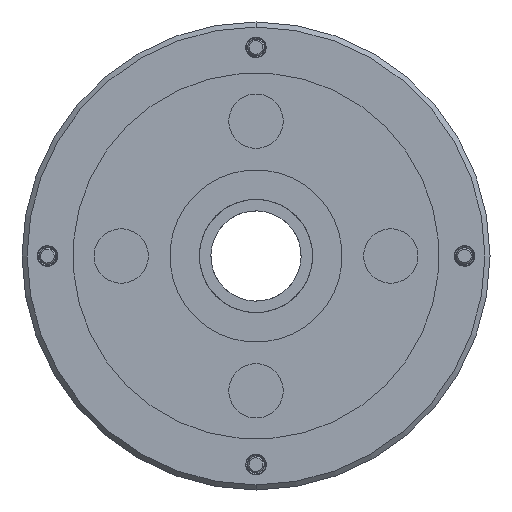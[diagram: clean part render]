
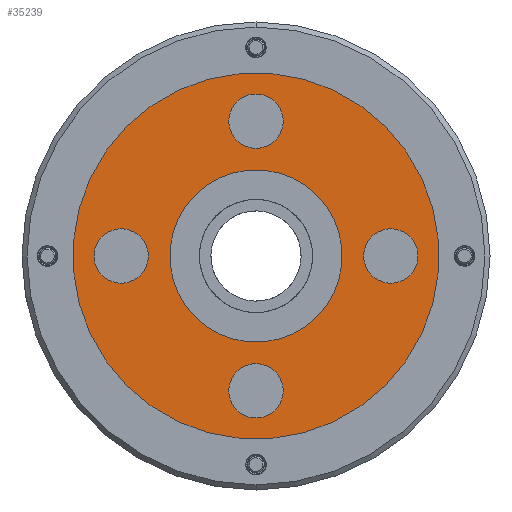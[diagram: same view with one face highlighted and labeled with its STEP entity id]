
A CAD part, front view. The second image highlights one B-rep face of the part: STEP entity #35239.
In plain terms, the highlighted planar face has unit normal (0, -1, 0).
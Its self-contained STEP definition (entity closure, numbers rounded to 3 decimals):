
#239 = ORIENTED_EDGE ( 'NONE', *, *, #51759, .F. ) ;
#2235 = DIRECTION ( 'NONE',  ( 0., -1., 0. ) ) ;
#4381 = CARTESIAN_POINT ( 'NONE',  ( -14.529, -383.6, 73.841 ) ) ;
#5721 = CARTESIAN_POINT ( 'NONE',  ( 59.315, -383.6, 79.499 ) ) ;
#5817 = DIRECTION ( 'NONE',  ( 0.707, 0., -0.707 ) ) ;
#6200 = EDGE_LOOP ( 'NONE', ( #80691, #85631 ) ) ;
#6371 = DIRECTION ( 'NONE',  ( 0.707, 0., -0.707 ) ) ;
#6553 = AXIS2_PLACEMENT_3D ( 'NONE', #32041, #94837, #103609 ) ;
#6646 = AXIS2_PLACEMENT_3D ( 'NONE', #69418, #14868, #85345 ) ;
#6824 = DIRECTION ( 'NONE',  ( 0.707, 0., -0.707 ) ) ;
#7228 = VERTEX_POINT ( 'NONE', #108678 ) ;
#11328 = AXIS2_PLACEMENT_3D ( 'NONE', #15734, #87370, #6371 ) ;
#11978 = AXIS2_PLACEMENT_3D ( 'NONE', #107774, #27422, #52664 ) ;
#13108 = AXIS2_PLACEMENT_3D ( 'NONE', #69801, #113147, #97360 ) ;
#13471 = DIRECTION ( 'NONE',  ( 0., -1., 0. ) ) ;
#13483 = FACE_BOUND ( 'NONE', #33333, .T. ) ;
#14451 = ORIENTED_EDGE ( 'NONE', *, *, #74886, .F. ) ;
#14868 = DIRECTION ( 'NONE',  ( 0., -1., 0. ) ) ;
#14906 = DIRECTION ( 'NONE',  ( 0., -1., 0. ) ) ;
#15415 = VERTEX_POINT ( 'NONE', #5721 ) ;
#15734 = CARTESIAN_POINT ( 'NONE',  ( 25.222, -383.6, 73.841 ) ) ;
#17169 = AXIS2_PLACEMENT_3D ( 'NONE', #93922, #13471, #38789 ) ;
#23340 = VERTEX_POINT ( 'NONE', #91705 ) ;
#26498 = EDGE_CURVE ( 'NONE', #89043, #87358, #34626, .T. ) ;
#26999 = EDGE_CURVE ( 'NONE', #87358, #89043, #77887, .T. ) ;
#27422 = DIRECTION ( 'NONE',  ( 0., -1., 0. ) ) ;
#27532 = VERTEX_POINT ( 'NONE', #93745 ) ;
#28834 = VERTEX_POINT ( 'NONE', #90599 ) ;
#29966 = FACE_BOUND ( 'NONE', #95725, .T. ) ;
#30700 = CARTESIAN_POINT ( 'NONE',  ( -8.871, -383.6, 68.184 ) ) ;
#32041 = CARTESIAN_POINT ( 'NONE',  ( 25.222, -383.6, 34.09 ) ) ;
#33333 = EDGE_LOOP ( 'NONE', ( #40933, #112376 ) ) ;
#34072 = VERTEX_POINT ( 'NONE', #47164 ) ;
#34626 = CIRCLE ( 'NONE', #47728, 8.001 ) ;
#35239 = ADVANCED_FACE ( 'NONE', ( #66918, #102688, #58070, #13483, #29966, #40502 ), #76352, .T. ) ;
#35947 = AXIS2_PLACEMENT_3D ( 'NONE', #110114, #2235, #38637 ) ;
#38475 = CIRCLE ( 'NONE', #66601, 8.001 ) ;
#38637 = DIRECTION ( 'NONE',  ( 0.707, 0., -0.707 ) ) ;
#38789 = DIRECTION ( 'NONE',  ( 0.707, 0., -0.707 ) ) ;
#38893 = EDGE_CURVE ( 'NONE', #62143, #34072, #52896, .T. ) ;
#40431 = CARTESIAN_POINT ( 'NONE',  ( 7.261, -383.6, 91.802 ) ) ;
#40502 = FACE_OUTER_BOUND ( 'NONE', #114187, .T. ) ;
#40708 = CARTESIAN_POINT ( 'NONE',  ( 70.631, -383.6, 68.184 ) ) ;
#40933 = ORIENTED_EDGE ( 'NONE', *, *, #51399, .F. ) ;
#45602 = DIRECTION ( 'NONE',  ( 0.707, 0., -0.707 ) ) ;
#45635 = EDGE_CURVE ( 'NONE', #76128, #60202, #80749, .T. ) ;
#46064 = CARTESIAN_POINT ( 'NONE',  ( -12.944, -383.6, 112.007 ) ) ;
#47164 = CARTESIAN_POINT ( 'NONE',  ( 43.182, -383.6, 55.881 ) ) ;
#47187 = ORIENTED_EDGE ( 'NONE', *, *, #94021, .T. ) ;
#47728 = AXIS2_PLACEMENT_3D ( 'NONE', #4381, #14906, #102926 ) ;
#51341 = EDGE_CURVE ( 'NONE', #27532, #28834, #77812, .T. ) ;
#51388 = DIRECTION ( 'NONE',  ( 0., -1., 0. ) ) ;
#51399 = EDGE_CURVE ( 'NONE', #51665, #15415, #38475, .T. ) ;
#51665 = VERTEX_POINT ( 'NONE', #40708 ) ;
#51759 = EDGE_CURVE ( 'NONE', #7228, #23340, #57169, .T. ) ;
#52419 = ORIENTED_EDGE ( 'NONE', *, *, #88977, .F. ) ;
#52664 = DIRECTION ( 'NONE',  ( 0.707, 0., -0.707 ) ) ;
#52896 = CIRCLE ( 'NONE', #82953, 25.4 ) ;
#57169 = CIRCLE ( 'NONE', #6646, 8.001 ) ;
#58070 = FACE_BOUND ( 'NONE', #71102, .T. ) ;
#60202 = VERTEX_POINT ( 'NONE', #85908 ) ;
#62038 = DIRECTION ( 'NONE',  ( 0., -1., 0. ) ) ;
#62143 = VERTEX_POINT ( 'NONE', #40431 ) ;
#64446 = AXIS2_PLACEMENT_3D ( 'NONE', #71453, #62038, #45602 ) ;
#66601 = AXIS2_PLACEMENT_3D ( 'NONE', #105323, #51388, #6824 ) ;
#66918 = FACE_BOUND ( 'NONE', #72615, .T. ) ;
#67576 = DIRECTION ( 'NONE',  ( 0.707, 0., -0.707 ) ) ;
#69145 = DIRECTION ( 'NONE',  ( 0., -1., 0. ) ) ;
#69418 = CARTESIAN_POINT ( 'NONE',  ( 25.222, -383.6, 113.592 ) ) ;
#69801 = CARTESIAN_POINT ( 'NONE',  ( 25.222, -383.6, 73.841 ) ) ;
#71102 = EDGE_LOOP ( 'NONE', ( #73500, #14451 ) ) ;
#71453 = CARTESIAN_POINT ( 'NONE',  ( 25.222, -383.6, 34.09 ) ) ;
#71993 = CARTESIAN_POINT ( 'NONE',  ( -20.187, -383.6, 79.499 ) ) ;
#72615 = EDGE_LOOP ( 'NONE', ( #239, #112860 ) ) ;
#73500 = ORIENTED_EDGE ( 'NONE', *, *, #51341, .F. ) ;
#74886 = EDGE_CURVE ( 'NONE', #28834, #27532, #90666, .T. ) ;
#75063 = EDGE_CURVE ( 'NONE', #15415, #51665, #90746, .T. ) ;
#76128 = VERTEX_POINT ( 'NONE', #46064 ) ;
#76352 = PLANE ( 'NONE',  #13108 ) ;
#77812 = CIRCLE ( 'NONE', #6553, 8.001 ) ;
#77887 = CIRCLE ( 'NONE', #115139, 8.001 ) ;
#80376 = ORIENTED_EDGE ( 'NONE', *, *, #38893, .F. ) ;
#80691 = ORIENTED_EDGE ( 'NONE', *, *, #26999, .F. ) ;
#80749 = CIRCLE ( 'NONE', #11328, 53.975 ) ;
#82953 = AXIS2_PLACEMENT_3D ( 'NONE', #94642, #111562, #85290 ) ;
#83578 = ORIENTED_EDGE ( 'NONE', *, *, #45635, .T. ) ;
#85290 = DIRECTION ( 'NONE',  ( 0.707, 0., -0.707 ) ) ;
#85345 = DIRECTION ( 'NONE',  ( 0.707, 0., -0.707 ) ) ;
#85631 = ORIENTED_EDGE ( 'NONE', *, *, #26498, .F. ) ;
#85908 = CARTESIAN_POINT ( 'NONE',  ( 63.388, -383.6, 35.675 ) ) ;
#86210 = CARTESIAN_POINT ( 'NONE',  ( 25.222, -383.6, 73.841 ) ) ;
#86583 = CIRCLE ( 'NONE', #35947, 25.4 ) ;
#87358 = VERTEX_POINT ( 'NONE', #30700 ) ;
#87370 = DIRECTION ( 'NONE',  ( 0., -1., 0. ) ) ;
#88747 = EDGE_CURVE ( 'NONE', #23340, #7228, #114496, .T. ) ;
#88977 = EDGE_CURVE ( 'NONE', #34072, #62143, #86583, .T. ) ;
#89043 = VERTEX_POINT ( 'NONE', #71993 ) ;
#90599 = CARTESIAN_POINT ( 'NONE',  ( 19.564, -383.6, 39.748 ) ) ;
#90666 = CIRCLE ( 'NONE', #64446, 8.001 ) ;
#90746 = CIRCLE ( 'NONE', #11978, 8.001 ) ;
#91037 = AXIS2_PLACEMENT_3D ( 'NONE', #86210, #69145, #5817 ) ;
#91705 = CARTESIAN_POINT ( 'NONE',  ( 19.564, -383.6, 119.25 ) ) ;
#93745 = CARTESIAN_POINT ( 'NONE',  ( 30.88, -383.6, 28.433 ) ) ;
#93922 = CARTESIAN_POINT ( 'NONE',  ( 25.222, -383.6, 113.592 ) ) ;
#94021 = EDGE_CURVE ( 'NONE', #60202, #76128, #100382, .T. ) ;
#94642 = CARTESIAN_POINT ( 'NONE',  ( 25.222, -383.6, 73.841 ) ) ;
#94837 = DIRECTION ( 'NONE',  ( 0., -1., 0. ) ) ;
#95160 = DIRECTION ( 'NONE',  ( 0., -1., 0. ) ) ;
#95725 = EDGE_LOOP ( 'NONE', ( #80376, #52419 ) ) ;
#97360 = DIRECTION ( 'NONE',  ( 0.707, 0., -0.707 ) ) ;
#100382 = CIRCLE ( 'NONE', #91037, 53.975 ) ;
#102688 = FACE_BOUND ( 'NONE', #6200, .T. ) ;
#102926 = DIRECTION ( 'NONE',  ( 0.707, 0., -0.707 ) ) ;
#103609 = DIRECTION ( 'NONE',  ( 0.707, 0., -0.707 ) ) ;
#103947 = CARTESIAN_POINT ( 'NONE',  ( -14.529, -383.6, 73.841 ) ) ;
#105323 = CARTESIAN_POINT ( 'NONE',  ( 64.973, -383.6, 73.841 ) ) ;
#107774 = CARTESIAN_POINT ( 'NONE',  ( 64.973, -383.6, 73.841 ) ) ;
#108678 = CARTESIAN_POINT ( 'NONE',  ( 30.88, -383.6, 107.935 ) ) ;
#110114 = CARTESIAN_POINT ( 'NONE',  ( 25.222, -383.6, 73.841 ) ) ;
#111562 = DIRECTION ( 'NONE',  ( 0., -1., 0. ) ) ;
#112376 = ORIENTED_EDGE ( 'NONE', *, *, #75063, .F. ) ;
#112860 = ORIENTED_EDGE ( 'NONE', *, *, #88747, .F. ) ;
#113147 = DIRECTION ( 'NONE',  ( 0., -1., 0. ) ) ;
#114187 = EDGE_LOOP ( 'NONE', ( #47187, #83578 ) ) ;
#114496 = CIRCLE ( 'NONE', #17169, 8.001 ) ;
#115139 = AXIS2_PLACEMENT_3D ( 'NONE', #103947, #95160, #67576 ) ;
